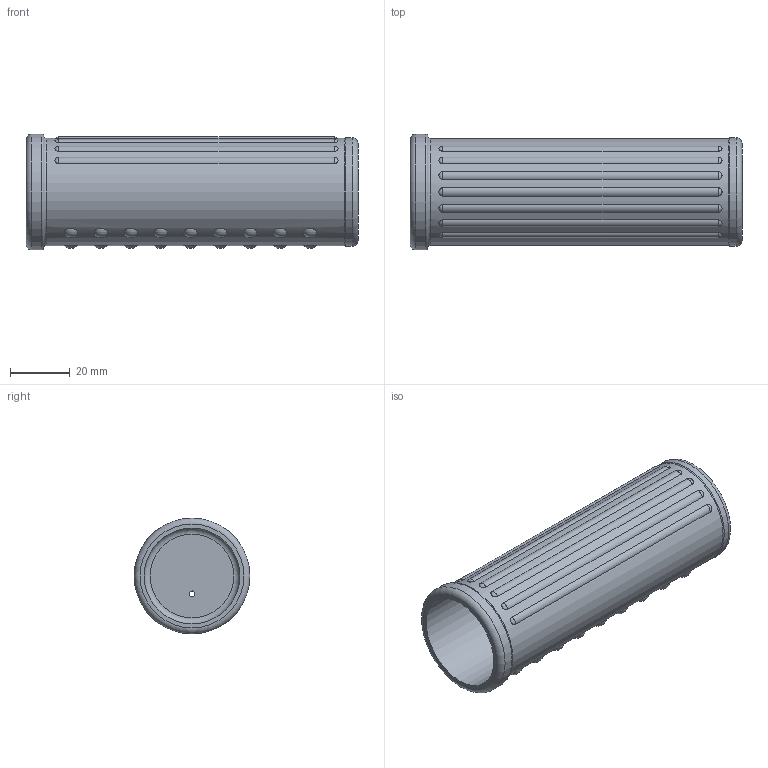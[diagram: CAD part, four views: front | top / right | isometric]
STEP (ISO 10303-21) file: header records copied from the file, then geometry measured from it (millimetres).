
FILE_DESCRIPTION( ('This file contains a STEP AP42 implementation' ,'as created by ZW3D STEP Interface translator.') ,'2;1' );
FILE_NAME( 'Raczka taczki.stp' ,'26 826. 653 6', (''), ('ZWCAD Software Co.'), 'Version 1.0', 'ZW3D to STEP translator', '' );
FILE_SCHEMA(('AP242_MANAGED_MODEL_BASED_3D_ENGINEERING_MIM_LF { 1 0 10303 442 1 1 4 }'));
Length unit declared in the file: millimetre
Products named in the file (1): 0
Bounding box: 111 x 38.7 x 38.7 mm (x, y, z)
Volume: 25531.4 mm3; surface area: 25860.3 mm2
Topology: 1 solids, 1 shells, 63 faces, 152 edges, 99 vertices
Faces by surface type: sphere 41, cylinder 12, torus 6, plane 4
Full cylindrical faces by diameter (mm): 2 x1, 32 x1, 35.8 x1, 36.2 x1, 38.7 x1
Entity records: 2181 total; most frequent: CARTESIAN_POINT 751, DIRECTION 272, ORIENTED_EDGE 250, AXIS2_PLACEMENT_3D 126, EDGE_CURVE 125, EDGE_LOOP 100, VERTEX_POINT 99, FACE_OUTER_BOUND 63
